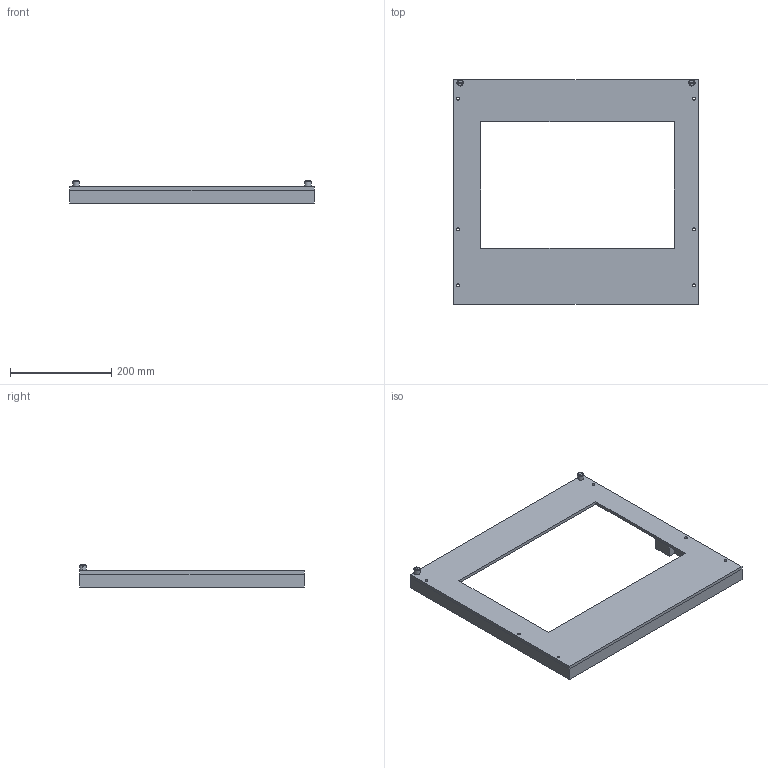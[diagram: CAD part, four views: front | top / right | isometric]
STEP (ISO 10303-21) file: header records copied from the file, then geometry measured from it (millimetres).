
FILE_DESCRIPTION (( 'STEP AP214' ), '1' );
FILE_NAME ('310113184 cust.STEP', '2006-07-20T17:43:12', ( 'jon' ), ( '' ), 'SwSTEP 2.0', 'SolidWorks 2006089', '' );
FILE_SCHEMA (( 'AUTOMOTIVE_DESIGN' ));
Length unit declared in the file: inch
Products named in the file (1): 310113184 cust
Bounding box: 482.6 x 443.78 x 43.43 mm (x, y, z)
Volume: 1809924.2 mm3; surface area: 437136.9 mm2
Topology: 4 solids, 4 shells, 96 faces, 252 edges, 162 vertices
Faces by surface type: plane 48, cylinder 36, cone 12
Entity records: 3288 total; most frequent: CARTESIAN_POINT 555, DIRECTION 514, ORIENTED_EDGE 496, EDGE_CURVE 248, AXIS2_PLACEMENT_3D 185, VERTEX_POINT 162, VECTOR 144, LINE 144
